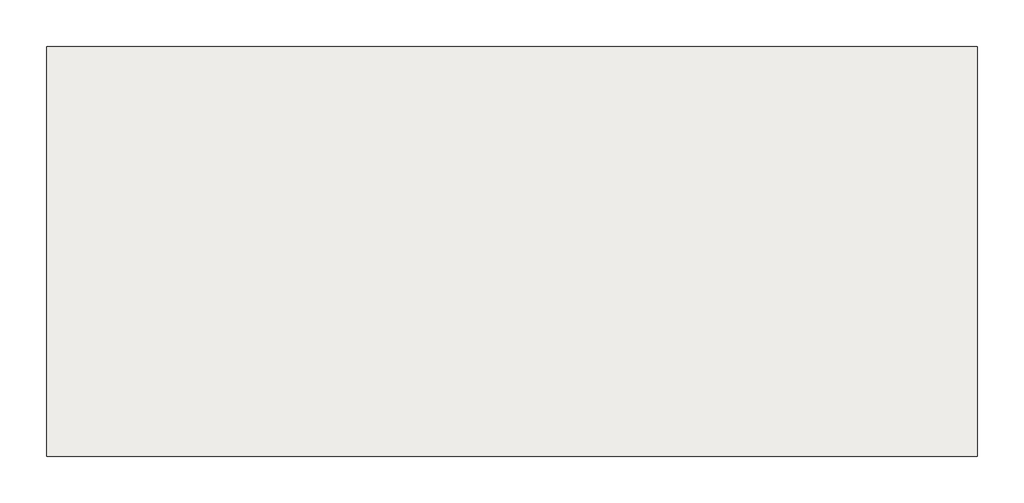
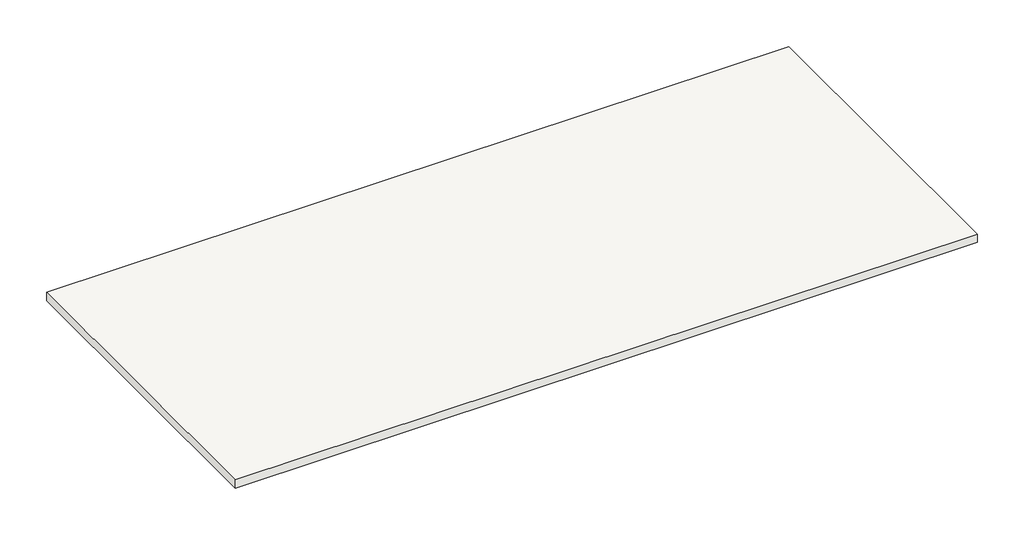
# One storey, incomplete: 1 slab.
"""IFC4 building model written with IfcOpenShell, lengths in millimetres."""

from ifc_helpers import new_model, si_unit, frame, origin, place, context, project, spatial, polyline, outline, extrude, element, save

model = new_model("IFC4")

# Units and contexts
model_context = context("Model", 3, world=origin())
ifc_project = project(units=[si_unit("LENGTHUNIT", "METRE", prefix="MILLI")], contexts=[model_context])

# Site, building, storey
site = spatial("IfcSite", under=ifc_project)
building = spatial("IfcBuilding", under=site)
storey = spatial("IfcBuildingStorey", under=building, Name="Elly with 5 star base", Elevation=6000.0)

# Slab
placement = place(None, origin())
element("IfcSlab", 1, ObjectType="Floor 1", at=placement, inside=storey, context=model_context, shape_type="SweptSolid", body=[
    extrude(outline(polyline([(25319.5001546, 5275.4305119), (25319.5001546, 1575.4305119), (16919.5001546, 1575.4305119), (16919.5001546, 5275.4305119), (25319.5001546, 5275.4305119)])), frame((0.0, 0.0, 5899.0), z_axis=(0.0, 0.0, 1.0), x_axis=(1.0, 0.0, 0.0)), (0.0, 0.0, 1.0), 100.0),
])

save(model, "model.ifc")
